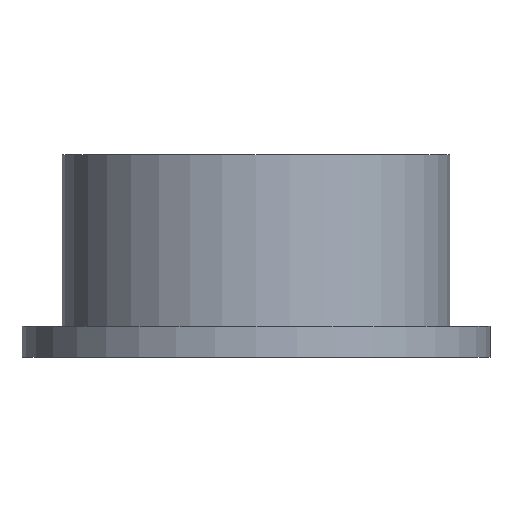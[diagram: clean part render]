
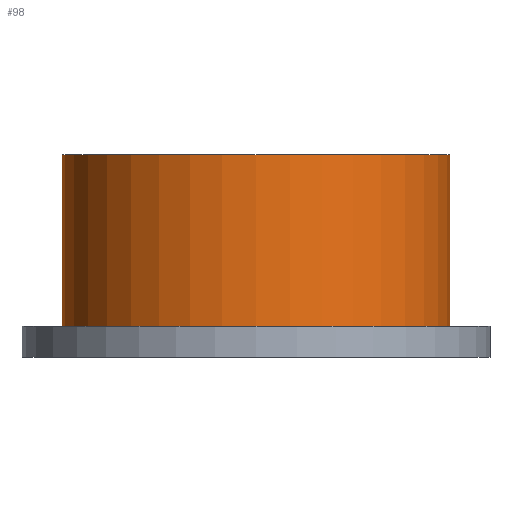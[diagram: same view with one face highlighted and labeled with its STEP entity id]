
A CAD part, front view. The second image highlights one B-rep face of the part: STEP entity #98.
In plain terms, the highlighted cylindrical face has radius 12.427 mm (diameter 24.854 mm), a full revolution.
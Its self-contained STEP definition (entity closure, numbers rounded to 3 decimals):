
#3 = DIRECTION ( 'NONE',  ( -1., 0., 0. ) ) ;
#9 = AXIS2_PLACEMENT_3D ( 'NONE', #108, #201, #86 ) ;
#11 = ORIENTED_EDGE ( 'NONE', *, *, #165, .T. ) ;
#16 = CIRCLE ( 'NONE', #209, 12.427 ) ;
#21 = AXIS2_PLACEMENT_3D ( 'NONE', #133, #186, #54 ) ;
#26 = CARTESIAN_POINT ( 'NONE',  ( 0., 0., 2. ) ) ;
#32 = CYLINDRICAL_SURFACE ( 'NONE', #21, 12.427 ) ;
#34 = VERTEX_POINT ( 'NONE', #198 ) ;
#47 = CIRCLE ( 'NONE', #9, 12.427 ) ;
#54 = DIRECTION ( 'NONE',  ( -1., 0., 0. ) ) ;
#86 = DIRECTION ( 'NONE',  ( -1., 0., 0. ) ) ;
#98 = ADVANCED_FACE ( 'NONE', ( #161, #149 ), #32, .T. ) ;
#105 = CARTESIAN_POINT ( 'NONE',  ( -12.427, 0., 2. ) ) ;
#108 = CARTESIAN_POINT ( 'NONE',  ( 0., 0., 13. ) ) ;
#114 = EDGE_LOOP ( 'NONE', ( #142 ) ) ;
#133 = CARTESIAN_POINT ( 'NONE',  ( 0., 0., 0. ) ) ;
#140 = DIRECTION ( 'NONE',  ( 0., 0., -1. ) ) ;
#142 = ORIENTED_EDGE ( 'NONE', *, *, #157, .F. ) ;
#149 = FACE_OUTER_BOUND ( 'NONE', #114, .T. ) ;
#157 = EDGE_CURVE ( 'NONE', #206, #206, #16, .T. ) ;
#161 = FACE_OUTER_BOUND ( 'NONE', #202, .T. ) ;
#165 = EDGE_CURVE ( 'NONE', #34, #34, #47, .T. ) ;
#186 = DIRECTION ( 'NONE',  ( 0., 0., -1. ) ) ;
#198 = CARTESIAN_POINT ( 'NONE',  ( -12.427, 0., 13. ) ) ;
#201 = DIRECTION ( 'NONE',  ( 0., 0., -1. ) ) ;
#202 = EDGE_LOOP ( 'NONE', ( #11 ) ) ;
#206 = VERTEX_POINT ( 'NONE', #105 ) ;
#209 = AXIS2_PLACEMENT_3D ( 'NONE', #26, #140, #3 ) ;
